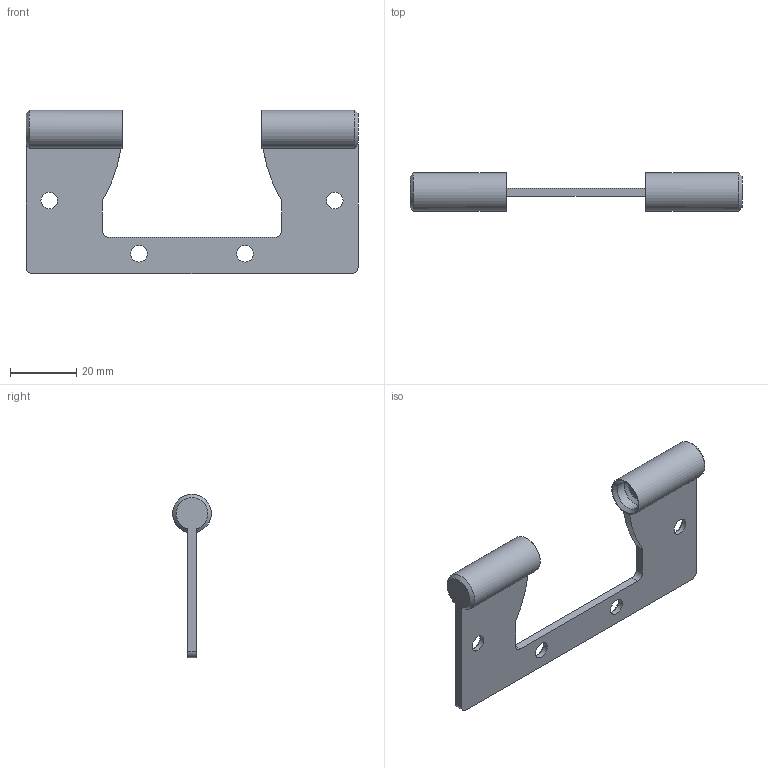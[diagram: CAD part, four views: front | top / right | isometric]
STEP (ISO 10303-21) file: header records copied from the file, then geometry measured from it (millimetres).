
FILE_DESCRIPTION(/* description */ ('Дверные петли 02'),/* implementation_level */ '2;1');
FILE_NAME(/* name */ 'D:\мои документы\Ирина\ЧЭнК\Конкурсы и олимпиады\WSR\WSR Задания разные\2016_11 Южный Урал\Day_2 - чертежи задание и критерии\Участнику\Детали и подсборки\Дверные петли 02.stp',/* time_stamp */ '2016-10-25T23:36:21+05:00',/* author */ ('Дом'),/* organization */ (''),/* preprocessor_version */ 'ST-DEVELOPER v16.5',/* originating_system */ 'Autodesk Inventor 2017',/* authorisation */ '');
FILE_SCHEMA (('AUTOMOTIVE_DESIGN { 1 0 10303 214 3 1 1 }'));
Length unit declared in the file: millimetre
Products named in the file (1): 2016.011.002.003
Bounding box: 100 x 11.6 x 49.2 mm (x, y, z)
Volume: 11301.1 mm3; surface area: 8111.2 mm2
Topology: 1 solids, 1 shells, 36 faces, 88 edges, 56 vertices
Faces by surface type: cylinder 14, plane 12, cone 10
Full cylindrical faces by diameter (mm): 5 x4, 9 x2, 11.6 x2
Entity records: 1012 total; most frequent: CARTESIAN_POINT 181, DIRECTION 176, ORIENTED_EDGE 140, AXIS2_PLACEMENT_3D 75, EDGE_CURVE 70, EDGE_LOOP 62, VERTEX_POINT 54, CIRCLE 38
